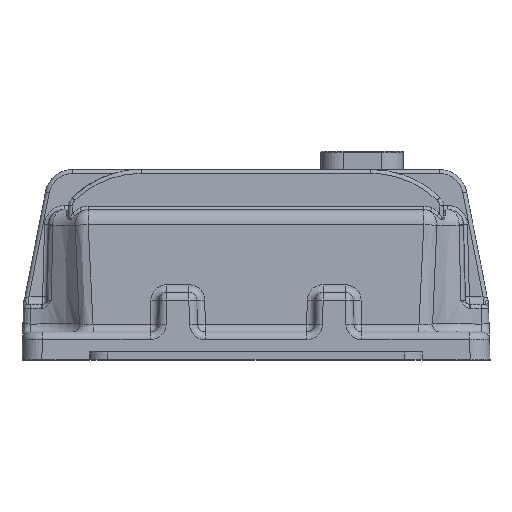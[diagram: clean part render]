
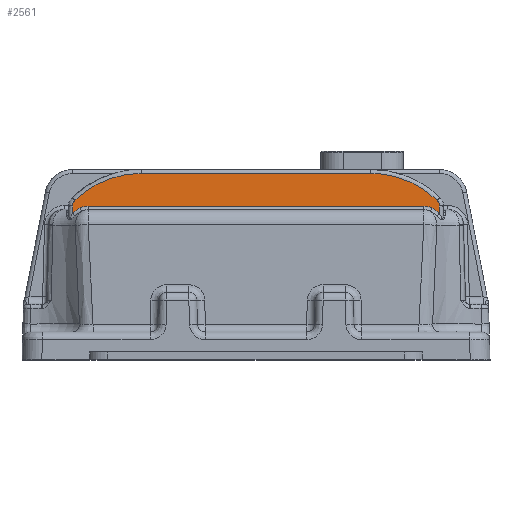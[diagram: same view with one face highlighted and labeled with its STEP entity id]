
A CAD part, top view. The second image highlights one B-rep face of the part: STEP entity #2561.
In plain terms, the highlighted planar face has unit normal (0, 0.026, 1).
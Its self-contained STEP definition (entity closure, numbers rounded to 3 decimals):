
#288 = VERTEX_POINT ( 'NONE', #54924 ) ;
#2561 = ADVANCED_FACE ( 'NONE', ( #65671 ), #77909, .T. ) ;
#2709 = DIRECTION ( 'NONE',  ( 0., -1., 0.026 ) ) ;
#3113 =( BOUNDED_CURVE ( )  B_SPLINE_CURVE ( 3, ( #79453, #31899, #13200, #11502 ),
 .UNSPECIFIED., .F., .T. ) 
 B_SPLINE_CURVE_WITH_KNOTS ( ( 4, 4 ),
 ( 3.913, 4.712 ),
 .UNSPECIFIED. ) 
 CURVE ( )  GEOMETRIC_REPRESENTATION_ITEM ( )  RATIONAL_B_SPLINE_CURVE ( ( 1., 0.947, 0.947, 1. ) ) 
 REPRESENTATION_ITEM ( '' )  );
#3526 = ORIENTED_EDGE ( 'NONE', *, *, #40178, .T. ) ;
#4490 = DIRECTION ( 'NONE',  ( 0., -0.026, -1. ) ) ;
#5166 = CARTESIAN_POINT ( 'NONE',  ( -41.127, 44.64, 33.363 ) ) ;
#6087 = LINE ( 'NONE', #33020, #29498 ) ;
#7082 = ORIENTED_EDGE ( 'NONE', *, *, #74078, .T. ) ;
#9327 = LINE ( 'NONE', #62442, #21741 ) ;
#11062 =( BOUNDED_CURVE ( )  B_SPLINE_CURVE ( 3, ( #64915, #11762, #19561, #52249 ),
 .UNSPECIFIED., .F., .T. ) 
 B_SPLINE_CURVE_WITH_KNOTS ( ( 4, 4 ),
 ( 2.371, 3.14 ),
 .UNSPECIFIED. ) 
 CURVE ( )  GEOMETRIC_REPRESENTATION_ITEM ( )  RATIONAL_B_SPLINE_CURVE ( ( 1., 0.951, 0.951, 1. ) ) 
 REPRESENTATION_ITEM ( '' )  );
#11502 = CARTESIAN_POINT ( 'NONE',  ( -46.263, 38.805, 33.516 ) ) ;
#11762 = CARTESIAN_POINT ( 'NONE',  ( 41.128, 44.64, 33.363 ) ) ;
#11983 = AXIS2_PLACEMENT_3D ( 'NONE', #30602, #4490, #31043 ) ;
#12176 = CARTESIAN_POINT ( 'NONE',  ( 45.058, 37.937, 33.538 ) ) ;
#12532 = CARTESIAN_POINT ( 'NONE',  ( 45.656, 40.24, 33.478 ) ) ;
#13023 = VERTEX_POINT ( 'NONE', #60101 ) ;
#13200 = CARTESIAN_POINT ( 'NONE',  ( -46.263, 39.353, 33.501 ) ) ;
#14910 = EDGE_CURVE ( 'NONE', #43677, #13023, #44423, .T. ) ;
#16745 = ORIENTED_EDGE ( 'NONE', *, *, #68968, .T. ) ;
#18315 = AXIS2_PLACEMENT_3D ( 'NONE', #50839, #78348, #19463 ) ;
#18657 = CARTESIAN_POINT ( 'NONE',  ( -28.963, 47.026, 33.3 ) ) ;
#19099 = DIRECTION ( 'NONE',  ( 1., 0., 0. ) ) ;
#19463 = DIRECTION ( 'NONE',  ( 0., -1., 0.026 ) ) ;
#19561 = CARTESIAN_POINT ( 'NONE',  ( 35.278, 47.018, 33.301 ) ) ;
#21583 = CARTESIAN_POINT ( 'NONE',  ( 44.717, 38.138, 33.533 ) ) ;
#21741 = VECTOR ( 'NONE', #2709, 1000. ) ;
#22725 = CARTESIAN_POINT ( 'NONE',  ( -46.263, 38.805, 33.516 ) ) ;
#22848 = CARTESIAN_POINT ( 'NONE',  ( 42.311, 34.014, 33.641 ) ) ;
#24335 = CARTESIAN_POINT ( 'NONE',  ( -44.356, 38.31, 33.529 ) ) ;
#24393 = LINE ( 'NONE', #24820, #49079 ) ;
#24820 = CARTESIAN_POINT ( 'NONE',  ( -28.964, 47.026, 33.3 ) ) ;
#25286 = CARTESIAN_POINT ( 'NONE',  ( 45.656, 40.24, 33.478 ) ) ;
#25598 = CARTESIAN_POINT ( 'NONE',  ( -46.263, 36.92, 33.565 ) ) ;
#29498 = VECTOR ( 'NONE', #44835, 1000. ) ;
#30602 = CARTESIAN_POINT ( 'NONE',  ( -42.311, 34.014, 33.641 ) ) ;
#31026 = EDGE_CURVE ( 'NONE', #81126, #43677, #32227, .T. ) ;
#31043 = DIRECTION ( 'NONE',  ( 0., -1., 0.026 ) ) ;
#31899 = CARTESIAN_POINT ( 'NONE',  ( -46.049, 39.858, 33.488 ) ) ;
#32227 = CIRCLE ( 'NONE', #65715, 4.759 ) ;
#33020 = CARTESIAN_POINT ( 'NONE',  ( 46.263, 0.809, 34.511 ) ) ;
#35030 = CARTESIAN_POINT ( 'NONE',  ( 46.263, 36.92, 33.565 ) ) ;
#35728 = VERTEX_POINT ( 'NONE', #68125 ) ;
#36058 = ORIENTED_EDGE ( 'NONE', *, *, #14910, .T. ) ;
#36107 = ORIENTED_EDGE ( 'NONE', *, *, #76133, .T. ) ;
#36441 =( BOUNDED_CURVE ( )  B_SPLINE_CURVE ( 3, ( #44045, #85487, #44472, #25286 ),
 .UNSPECIFIED., .F., .T. ) 
 B_SPLINE_CURVE_WITH_KNOTS ( ( 4, 4 ),
 ( 1.571, 2.371 ),
 .UNSPECIFIED. ) 
 CURVE ( )  GEOMETRIC_REPRESENTATION_ITEM ( )  RATIONAL_B_SPLINE_CURVE ( ( 1., 0.947, 0.947, 1. ) ) 
 REPRESENTATION_ITEM ( '' )  );
#37342 = EDGE_CURVE ( 'NONE', #13023, #75698, #6087, .T. ) ;
#38688 = CARTESIAN_POINT ( 'NONE',  ( 45.695, 37.476, 33.551 ) ) ;
#39098 = CARTESIAN_POINT ( 'NONE',  ( -45.058, 37.937, 33.538 ) ) ;
#39533 = CARTESIAN_POINT ( 'NONE',  ( -45.656, 40.24, 33.478 ) ) ;
#39744 = VERTEX_POINT ( 'NONE', #57988 ) ;
#40178 = EDGE_CURVE ( 'NONE', #71929, #81126, #72268, .T. ) ;
#40567 = B_SPLINE_CURVE_WITH_KNOTS ( 'NONE', 3,
 ( #25598, #65308, #72271, #39098, #84535, #24335 ),
 .UNSPECIFIED., .F., .F.,
 ( 4, 2, 4 ),
 ( 0., 0.001, 0.002 ),
 .UNSPECIFIED. ) ;
#41404 = ORIENTED_EDGE ( 'NONE', *, *, #59811, .T. ) ;
#43677 = VERTEX_POINT ( 'NONE', #57333 ) ;
#44045 = CARTESIAN_POINT ( 'NONE',  ( 46.263, 38.805, 33.516 ) ) ;
#44423 = B_SPLINE_CURVE_WITH_KNOTS ( 'NONE', 3,
 ( #54690, #21583, #12176, #38688, #65333, #35030 ),
 .UNSPECIFIED., .F., .F.,
 ( 4, 2, 4 ),
 ( 0., 0.001, 0.002 ),
 .UNSPECIFIED. ) ;
#44472 = CARTESIAN_POINT ( 'NONE',  ( 46.049, 39.858, 33.488 ) ) ;
#44506 =( BOUNDED_CURVE ( )  B_SPLINE_CURVE ( 3, ( #18657, #84942, #5166, #63132 ),
 .UNSPECIFIED., .F., .T. ) 
 B_SPLINE_CURVE_WITH_KNOTS ( ( 4, 4 ),
 ( 3.143, 3.913 ),
 .UNSPECIFIED. ) 
 CURVE ( )  GEOMETRIC_REPRESENTATION_ITEM ( )  RATIONAL_B_SPLINE_CURVE ( ( 1., 0.951, 0.951, 1. ) ) 
 REPRESENTATION_ITEM ( '' )  );
#44590 = DIRECTION ( 'NONE',  ( 0., -1., 0.026 ) ) ;
#44835 = DIRECTION ( 'NONE',  ( 0., 1., -0.026 ) ) ;
#45140 = VECTOR ( 'NONE', #19099, 1000. ) ;
#46099 = EDGE_LOOP ( 'NONE', ( #7082, #56147, #84041, #3526, #49256, #36058, #84432, #41404, #16745, #73297, #36107, #71193 ) ) ;
#49079 = VECTOR ( 'NONE', #70594, 1000. ) ;
#49256 = ORIENTED_EDGE ( 'NONE', *, *, #31026, .T. ) ;
#50554 = CARTESIAN_POINT ( 'NONE',  ( 46.263, 38.805, 33.516 ) ) ;
#50839 = CARTESIAN_POINT ( 'NONE',  ( 0., 38., 33.537 ) ) ;
#52249 = CARTESIAN_POINT ( 'NONE',  ( 28.964, 47.026, 33.3 ) ) ;
#53046 = CARTESIAN_POINT ( 'NONE',  ( 0., 38.771, 33.517 ) ) ;
#54290 = EDGE_CURVE ( 'NONE', #39744, #71929, #66221, .T. ) ;
#54690 = CARTESIAN_POINT ( 'NONE',  ( 44.356, 38.31, 33.529 ) ) ;
#54924 = CARTESIAN_POINT ( 'NONE',  ( 28.964, 47.026, 33.3 ) ) ;
#56147 = ORIENTED_EDGE ( 'NONE', *, *, #85021, .T. ) ;
#56160 = VERTEX_POINT ( 'NONE', #22725 ) ;
#57333 = CARTESIAN_POINT ( 'NONE',  ( 44.356, 38.31, 33.529 ) ) ;
#57988 = CARTESIAN_POINT ( 'NONE',  ( -44.356, 38.31, 33.529 ) ) ;
#59811 = EDGE_CURVE ( 'NONE', #75698, #67628, #36441, .T. ) ;
#60101 = CARTESIAN_POINT ( 'NONE',  ( 46.263, 36.92, 33.565 ) ) ;
#62442 = CARTESIAN_POINT ( 'NONE',  ( -46.263, 38., 33.537 ) ) ;
#63132 = CARTESIAN_POINT ( 'NONE',  ( -45.656, 40.24, 33.478 ) ) ;
#64915 = CARTESIAN_POINT ( 'NONE',  ( 45.656, 40.24, 33.478 ) ) ;
#65308 = CARTESIAN_POINT ( 'NONE',  ( -45.992, 37.216, 33.557 ) ) ;
#65333 = CARTESIAN_POINT ( 'NONE',  ( 45.992, 37.216, 33.557 ) ) ;
#65671 = FACE_OUTER_BOUND ( 'NONE', #46099, .T. ) ;
#65715 = AXIS2_PLACEMENT_3D ( 'NONE', #22848, #76042, #44590 ) ;
#66221 = CIRCLE ( 'NONE', #11983, 4.759 ) ;
#67628 = VERTEX_POINT ( 'NONE', #12532 ) ;
#67906 = CARTESIAN_POINT ( 'NONE',  ( -46.263, 36.92, 33.565 ) ) ;
#68125 = CARTESIAN_POINT ( 'NONE',  ( -28.963, 47.026, 33.3 ) ) ;
#68968 = EDGE_CURVE ( 'NONE', #67628, #288, #11062, .T. ) ;
#69060 = VERTEX_POINT ( 'NONE', #67906 ) ;
#69951 = EDGE_CURVE ( 'NONE', #288, #35728, #24393, .T. ) ;
#70594 = DIRECTION ( 'NONE',  ( -1., 0., 0. ) ) ;
#71193 = ORIENTED_EDGE ( 'NONE', *, *, #71318, .T. ) ;
#71318 = EDGE_CURVE ( 'NONE', #85115, #56160, #3113, .T. ) ;
#71929 = VERTEX_POINT ( 'NONE', #82787 ) ;
#72268 = LINE ( 'NONE', #53046, #45140 ) ;
#72271 = CARTESIAN_POINT ( 'NONE',  ( -45.695, 37.476, 33.551 ) ) ;
#72576 = CARTESIAN_POINT ( 'NONE',  ( 42.311, 38.771, 33.517 ) ) ;
#73297 = ORIENTED_EDGE ( 'NONE', *, *, #69951, .T. ) ;
#74078 = EDGE_CURVE ( 'NONE', #56160, #69060, #9327, .T. ) ;
#75698 = VERTEX_POINT ( 'NONE', #50554 ) ;
#76042 = DIRECTION ( 'NONE',  ( 0., -0.026, -1. ) ) ;
#76133 = EDGE_CURVE ( 'NONE', #35728, #85115, #44506, .T. ) ;
#77909 = PLANE ( 'NONE',  #18315 ) ;
#78348 = DIRECTION ( 'NONE',  ( 0., 0.026, 1. ) ) ;
#79453 = CARTESIAN_POINT ( 'NONE',  ( -45.656, 40.24, 33.478 ) ) ;
#81126 = VERTEX_POINT ( 'NONE', #72576 ) ;
#82787 = CARTESIAN_POINT ( 'NONE',  ( -42.311, 38.771, 33.517 ) ) ;
#84041 = ORIENTED_EDGE ( 'NONE', *, *, #54290, .T. ) ;
#84432 = ORIENTED_EDGE ( 'NONE', *, *, #37342, .T. ) ;
#84535 = CARTESIAN_POINT ( 'NONE',  ( -44.717, 38.138, 33.533 ) ) ;
#84942 = CARTESIAN_POINT ( 'NONE',  ( -35.278, 47.018, 33.301 ) ) ;
#85021 = EDGE_CURVE ( 'NONE', #69060, #39744, #40567, .T. ) ;
#85115 = VERTEX_POINT ( 'NONE', #39533 ) ;
#85487 = CARTESIAN_POINT ( 'NONE',  ( 46.263, 39.353, 33.501 ) ) ;
